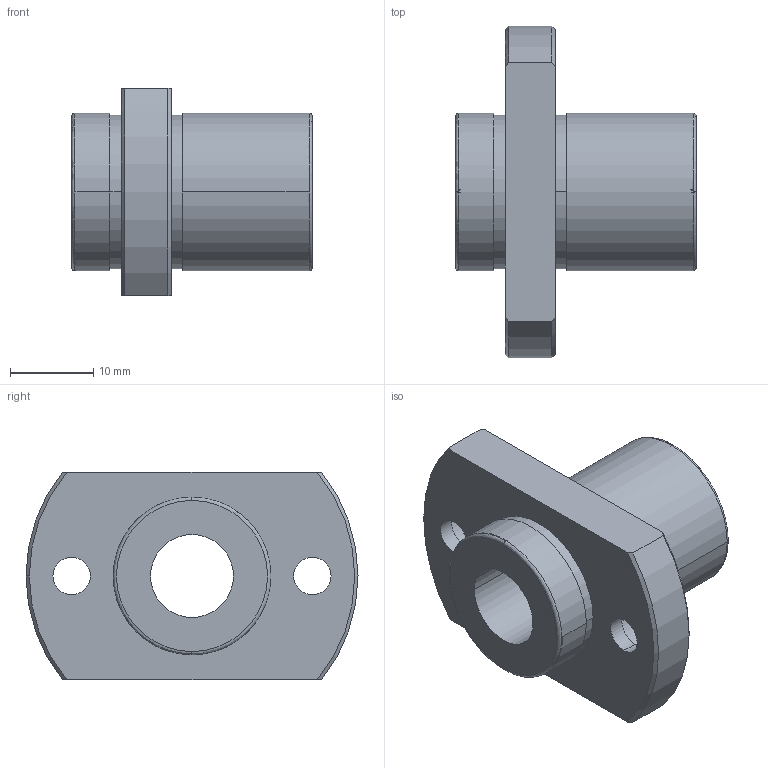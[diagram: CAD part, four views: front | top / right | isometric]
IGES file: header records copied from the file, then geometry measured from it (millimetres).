
Start section: 3D InterOp IGES (Version 21 0 1), Spatial Corp. Copyright (c) 1999-2007.
Global section: file name: NFIO-10VUU.igs; native system: Spatial Corp.; preprocessor: 3D InterOp GENERIC/IGES 3.0; author: Noname; organization: Noname; date: 20220308.102307; units: millimetre
Bounding box: 29 x 40 x 25 mm (x, y, z)
Surface area: 5304.6 mm2 (no closed solid volume)
Topology: 0 solids, 0 shells, 41 faces, 202 edges, 198 vertices
Faces by surface type: revolution 31, extrusion 10
